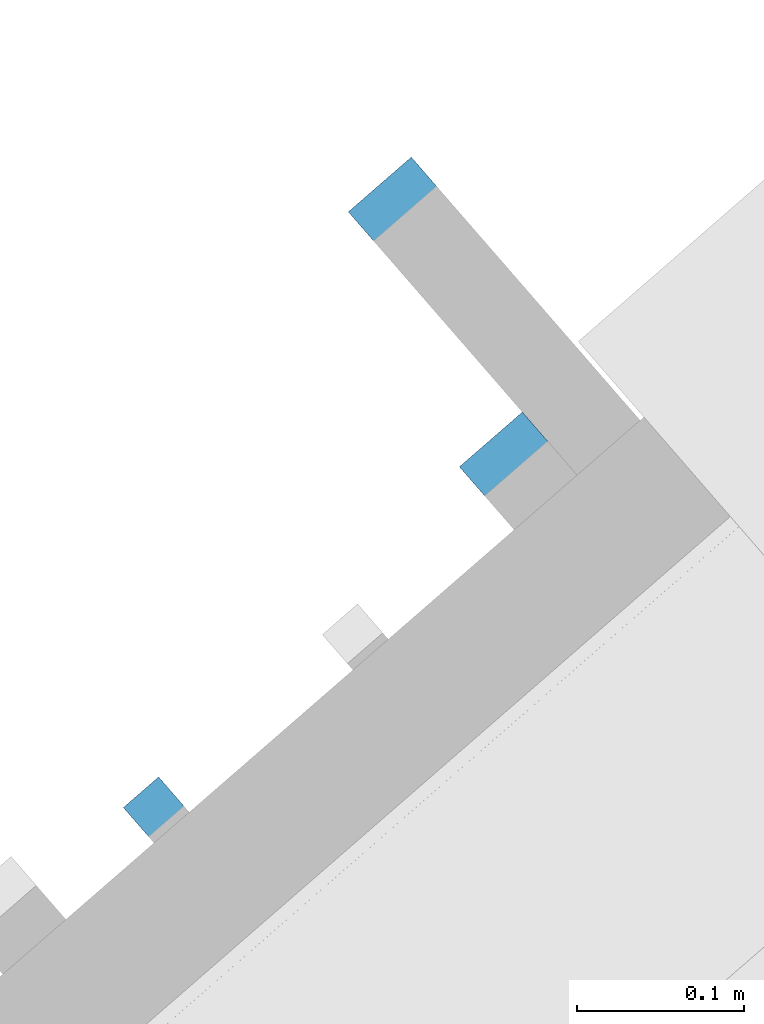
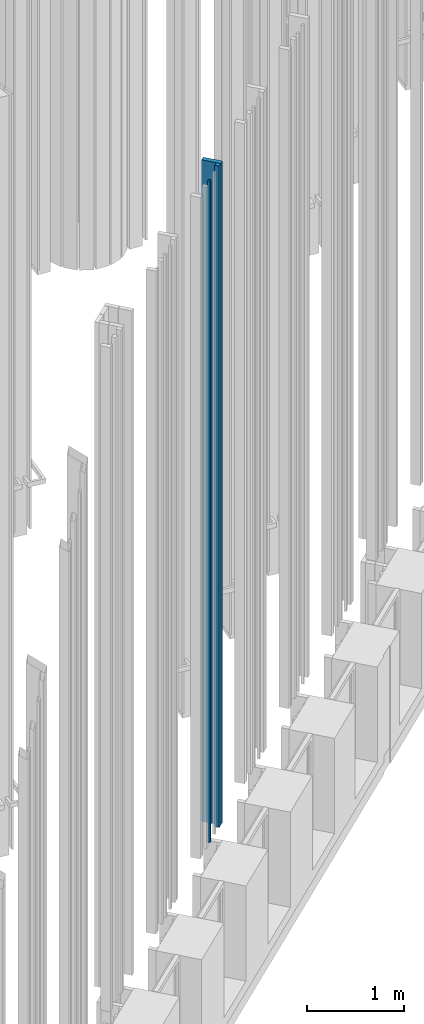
# One storey, part 250 of 390: 3 walls.
"""IFC2X3 building model written with IfcOpenShell, lengths in millimetres."""

from ifc_helpers import new_model, entity, si_unit, converted_unit, derived_unit, money_unit, direction, frame, origin_with_axes, place, context, subcontext, project, spatial, faceted_brep, material, type_object, element, save


model = new_model("IFC2X3")

# Units and contexts
model_context = context("Model", 3, precision=1e-05, world=origin_with_axes(), true_north=direction((0.0, 1.0)))
body_context = subcontext(model_context, "Body", "Model", "MODEL_VIEW")
ifc_project = project(units=[si_unit("LENGTHUNIT", "METRE", prefix="MILLI"), si_unit("AREAUNIT", "SQUARE_METRE"), si_unit("VOLUMEUNIT", "CUBIC_METRE"), converted_unit("PLANEANGLEUNIT", "DEGREE", entity("IfcPlaneAngleMeasure", 0.0174532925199), si_unit("PLANEANGLEUNIT", "RADIAN"), dimensions=[0, 0, 0, 0, 0, 0, 0]), si_unit("SOLIDANGLEUNIT", "STERADIAN"), money_unit("EUR"), converted_unit("TIMEUNIT", "Year", entity("IfcTimeMeasure", 31556926.0), si_unit("TIMEUNIT", "SECOND"), dimensions=[0, 0, 1, 0, 0, 0, 0]), si_unit("MASSUNIT", "GRAM", prefix="KILO"), si_unit("THERMODYNAMICTEMPERATUREUNIT", "DEGREE_CELSIUS"), si_unit("LUMINOUSINTENSITYUNIT", "LUMEN"), si_unit("ENERGYUNIT", "JOULE", prefix="MEGA"), derived_unit("THERMALCONDUCTANCEUNIT", [(si_unit("POWERUNIT", "WATT"), 1), (si_unit("LENGTHUNIT", "METRE"), -1), (si_unit("THERMODYNAMICTEMPERATUREUNIT", "KELVIN"), -1)]), derived_unit("SPECIFICHEATCAPACITYUNIT", [(si_unit("ENERGYUNIT", "JOULE"), 1), (si_unit("MASSUNIT", "GRAM", prefix="KILO"), -1), (si_unit("THERMODYNAMICTEMPERATUREUNIT", "KELVIN"), -1)]), derived_unit("MASSDENSITYUNIT", [(si_unit("MASSUNIT", "GRAM", prefix="KILO"), 1), (si_unit("VOLUMEUNIT", "CUBIC_METRE"), -1)])], contexts=[model_context])

# Site, building, storey
site_placement = place(None, origin_with_axes())
site = spatial("IfcSite", under=ifc_project, at=site_placement, Name="Site", CompositionType="ELEMENT")
building_placement = place(site_placement, origin_with_axes())
building = spatial("IfcBuilding", under=site, at=building_placement, Name="Building", CompositionType="ELEMENT")
storey_placement = place(building_placement, origin_with_axes())
storey = spatial("IfcBuildingStorey", under=building, at=storey_placement, Name="1 korrus", CompositionType="ELEMENT", Elevation=0.0)

# Walls
ifc_material = material(Name="Site specified")
wall_type = type_object("IfcWallType", Name="Puitfassaadi ribistik", PredefinedType="NOTDEFINED")
wall_1_placement = place(storey_placement, frame((144566.136997, 95811.1799503, 1553.00147262), z_axis=(0.0, 0.0, 1.0), x_axis=(0.754709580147, 0.656059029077, 0.0)))
element("IfcWall", 1, at=wall_1_placement, inside=storey, type_object=wall_type, material=ifc_material, Name="Site specified", context=body_context, shape_type="Brep", body=[
    faceted_brep([(25.0, 104.5, 8311.99852738), (25.0, 104.5, 0.0), (-25.0, 104.5, 0.0), (-25.0, 104.5, 8311.99852738), (25.0, -104.5, 8311.99852738), (25.0, -104.5, 0.0), (-25.0, -104.5, 0.0), (-25.0, -104.5, 8311.99852738)], [[[0, 1, 2, 3]], [[4, 5, 1, 0]], [[2, 1, 5, 6]], [[3, 2, 6, 7]], [[4, 0, 3, 7]], [[7, 6, 5, 4]]]),
])
wall_2_placement = place(storey_placement, frame((144363.626114, 95515.2262502, 1553.00147262), z_axis=(0.0, 0.0, 1.0), x_axis=(0.754709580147, 0.656059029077, 0.0)))
element("IfcWall", 2, at=wall_2_placement, inside=storey, type_object=wall_type, material=ifc_material, Name="Site specified", context=body_context, shape_type="Brep", body=[
    faceted_brep([(14.0, 14.0, 8311.99852738), (14.0, 14.0, 0.0), (-14.0, 14.0, 0.0), (-14.0, 14.0, 8311.99852738), (14.0, -14.0, 8311.99852738), (14.0, -14.0, 0.0), (-14.0, -14.0, 0.0), (-14.0, -14.0, 8311.99852738)], [[[0, 1, 2, 3]], [[4, 5, 1, 0]], [[2, 1, 5, 6]], [[3, 2, 6, 7]], [[4, 0, 3, 7]], [[7, 6, 5, 4]]]),
])
wall_3_placement = place(storey_placement, frame((144580.55821, 95718.3775872, 1553.00147262), z_axis=(0.0, 0.0, 1.0), x_axis=(0.754709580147, 0.656059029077, 0.0)))
element("IfcWall", 3, at=wall_3_placement, inside=storey, type_object=wall_type, material=ifc_material, Name="Site specified", context=body_context, shape_type="Brep", body=[
    faceted_brep([(25.0, 25.0, 8311.99852738), (25.0, 25.0, 0.0), (-25.0, 25.0, 0.0), (-25.0, 25.0, 8311.99852738), (25.0, -25.0, 8311.99852738), (25.0, -25.0, 0.0), (-25.0, -25.0, 0.0), (-25.0, -25.0, 8311.99852738)], [[[0, 1, 2, 3]], [[4, 5, 1, 0]], [[2, 1, 5, 6]], [[3, 2, 6, 7]], [[4, 0, 3, 7]], [[7, 6, 5, 4]]]),
])

save(model, "model.ifc")
